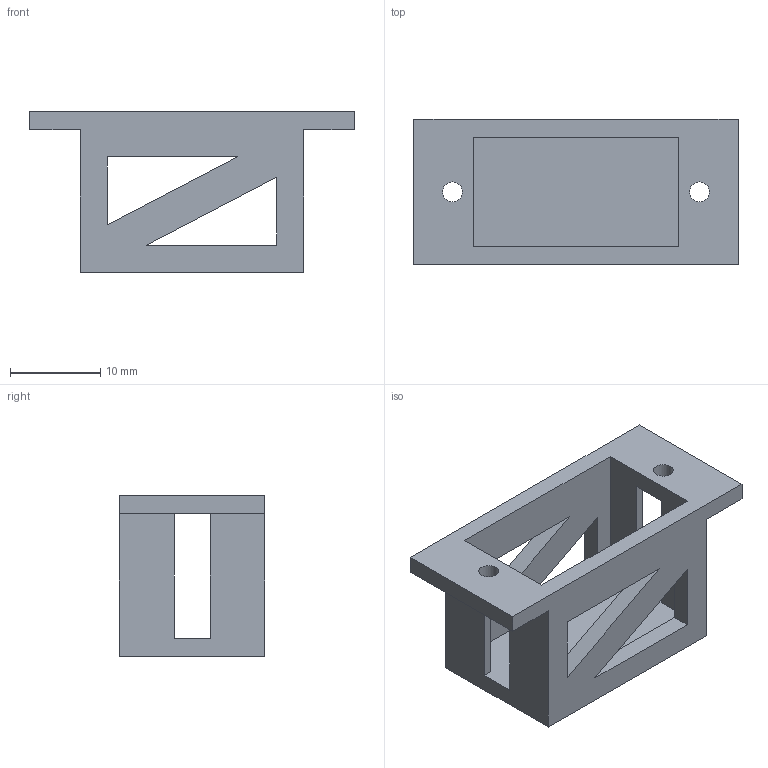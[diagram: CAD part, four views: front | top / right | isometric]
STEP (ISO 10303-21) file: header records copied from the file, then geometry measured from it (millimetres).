
FILE_DESCRIPTION(/* description */ (''),/* implementation_level */ '2;1');
FILE_NAME(/* name */ 'Shoulder Servo Cage_v11.tmp.step',/* time_stamp */ '2026-11-01T13:11:47+02:00',/* author */ (''),/* organization */ (''),/* preprocessor_version */ 'ST-DEVELOPER v20.2',/* originating_system */ 'Autodesk Translation Framework v15.15.0.0',/* authorisation */ '');
FILE_SCHEMA (('AUTOMOTIVE_DESIGN { 1 0 10303 214 3 1 1 }'));
Length unit declared in the file: millimetre
Products named in the file (1): Shoulder Servo Cage
Bounding box: 36 x 16.1 x 17.8 mm (x, y, z)
Volume: 2545.8 mm3; surface area: 3495.3 mm2
Topology: 1 solids, 1 shells, 37 faces, 114 edges, 76 vertices
Faces by surface type: plane 35, cylinder 2
Full cylindrical faces by diameter (mm): 2.2 x2
Entity records: 1317 total; most frequent: ORIENTED_EDGE 228, CARTESIAN_POINT 228, DIRECTION 194, EDGE_CURVE 114, LINE 110, VECTOR 110, VERTEX_POINT 76, EDGE_LOOP 50
